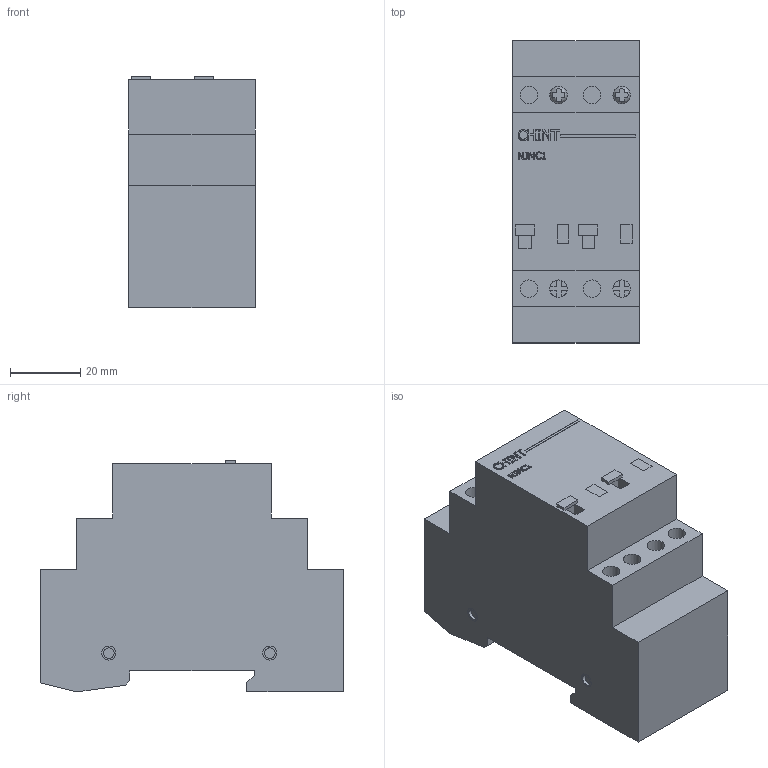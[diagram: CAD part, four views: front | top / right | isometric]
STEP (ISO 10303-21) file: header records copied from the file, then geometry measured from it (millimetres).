
FILE_DESCRIPTION(/* description */ (''),/* implementation_level */ '2;1');
FILE_NAME(/* name */ 'D:\CHINT\NJMC1\Импульсное реле NJMC1 2P (CHINT).stp',/* time_stamp */ '2017-09-30T15:34:56+04:00',/* author */ ('RSagdiev'),/* organization */ (''),/* preprocessor_version */ 'ST-DEVELOPER v16.5',/* originating_system */ 'Autodesk Inventor 2017',/* authorisation */ '');
FILE_SCHEMA (('AUTOMOTIVE_DESIGN { 1 0 10303 214 3 1 1 }'));
Length unit declared in the file: millimetre
Products named in the file (1): Импульсное \X2\0440
0435043B0435\X0\ NJMC1 2P (CHINT)
Bounding box: 36 x 86 x 66 mm (x, y, z)
Surface area: 44291.5 mm2
Topology: 20 solids, 24 shells, 415 faces, 982 edges, 666 vertices
Faces by surface type: plane 323, cylinder 50, bspline 42
Full cylindrical faces by diameter (mm): 3 x8, 4 x20, 5 x22
Entity records: 12079 total; most frequent: CARTESIAN_POINT 2807, ORIENTED_EDGE 1844, DIRECTION 1714, EDGE_CURVE 922, LINE 702, VECTOR 702, VERTEX_POINT 648, EDGE_LOOP 524
